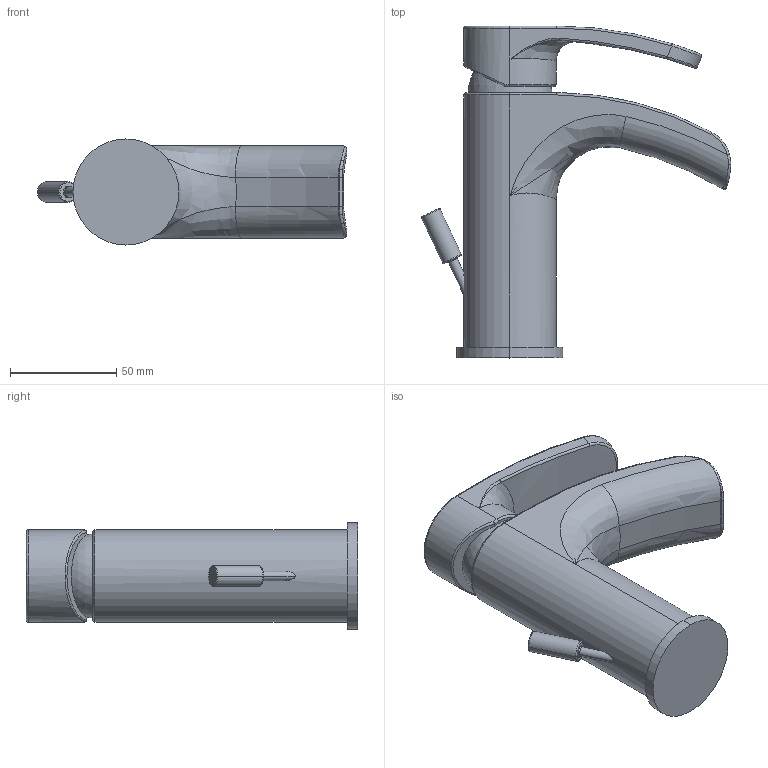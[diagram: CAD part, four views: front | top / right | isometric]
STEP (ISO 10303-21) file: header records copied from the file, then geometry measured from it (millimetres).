
FILE_DESCRIPTION (( 'STEP AP203' ), '1' );
FILE_NAME ('86CR211WFSKM.STEP', '2020-04-09T12:42:56', ( '' ), ( '' ), 'SwSTEP 2.0', 'SolidWorks 2018', '' );
FILE_SCHEMA (( 'CONFIG_CONTROL_DESIGN' ));
Length unit declared in the file: millimetre
Products named in the file (1): 86CR211WFSKM
Bounding box: 145.92 x 156.5 x 50 mm (x, y, z)
Volume: 298861.5 mm3; surface area: 46212 mm2
Topology: 1 solids, 1 shells, 115 faces, 260 edges, 147 vertices
Faces by surface type: cylinder 36, bspline 35, torus 25, plane 18, sphere 1
Entity records: 5763 total; most frequent: CARTESIAN_POINT 3350, ORIENTED_EDGE 508, DIRECTION 478, EDGE_CURVE 254, AXIS2_PLACEMENT_3D 211, VERTEX_POINT 146, CIRCLE 130, EDGE_LOOP 120
